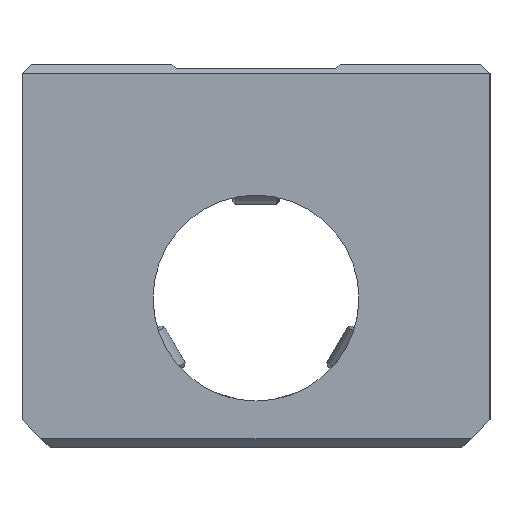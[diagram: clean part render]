
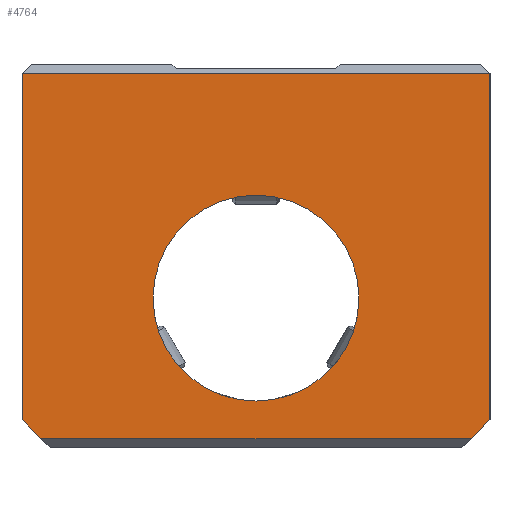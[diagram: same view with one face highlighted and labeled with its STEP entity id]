
A CAD part, left-side view. The second image highlights one B-rep face of the part: STEP entity #4764.
In plain terms, the highlighted planar face has unit normal (-1, 0, 0).
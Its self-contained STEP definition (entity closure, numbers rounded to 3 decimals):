
#3826=CARTESIAN_POINT('',(-30.0,-25.0,24.));
#3827=VERTEX_POINT('',#3826);
#3836=CARTESIAN_POINT('',(-30.0,-25.0,-13.));
#3837=VERTEX_POINT('',#3836);
#3838=CARTESIAN_POINT('',(-30.0,-25.0,24.));
#3839=DIRECTION('',(0.0,0.0,-1.0));
#3840=VECTOR('',#3839,37.);
#3841=LINE('',#3838,#3840);
#3842=EDGE_CURVE('',#3827,#3837,#3841,.T.);
#4557=CARTESIAN_POINT('',(-30.0,25.0,24.));
#4558=VERTEX_POINT('',#4557);
#4565=CARTESIAN_POINT('',(-30.0,25.0,24.));
#4566=DIRECTION('',(0.0,-1.0,0.0));
#4567=VECTOR('',#4566,50.0);
#4568=LINE('',#4565,#4567);
#4569=EDGE_CURVE('',#4558,#3827,#4568,.T.);
#4686=CARTESIAN_POINT('',(-30.0,-23.,-15.));
#4687=VERTEX_POINT('',#4686);
#4688=CARTESIAN_POINT('',(-30.0,-25.0,-13.));
#4689=DIRECTION('',(0.0,0.707,-0.707));
#4690=VECTOR('',#4689,2.828);
#4691=LINE('',#4688,#4690);
#4692=EDGE_CURVE('',#3837,#4687,#4691,.T.);
#4709=CARTESIAN_POINT('',(-30.0,23.,-15.));
#4710=VERTEX_POINT('',#4709);
#4719=CARTESIAN_POINT('',(-30.0,-23.,-15.));
#4720=DIRECTION('',(0.0,1.0,0.0));
#4721=VECTOR('',#4720,46.);
#4722=LINE('',#4719,#4721);
#4723=EDGE_CURVE('',#4687,#4710,#4722,.T.);
#4728=CARTESIAN_POINT('',(-30.0,-17.,24.75));
#4729=DIRECTION('',(1.0,0.0,0.0));
#4730=DIRECTION('',(0.0,0.0,-1.0));
#4731=AXIS2_PLACEMENT_3D('',#4728,#4729,#4730);
#4732=PLANE('',#4731);
#4733=ORIENTED_EDGE('',*,*,#4723,.F.);
#4734=ORIENTED_EDGE('',*,*,#4692,.F.);
#4735=ORIENTED_EDGE('',*,*,#3842,.F.);
#4736=ORIENTED_EDGE('',*,*,#4569,.F.);
#4737=CARTESIAN_POINT('',(-30.0,25.0,-13.));
#4738=VERTEX_POINT('',#4737);
#4739=CARTESIAN_POINT('',(-30.0,25.0,-13.));
#4740=DIRECTION('',(0.0,0.0,1.0));
#4741=VECTOR('',#4740,37.);
#4742=LINE('',#4739,#4741);
#4743=EDGE_CURVE('',#4738,#4558,#4742,.T.);
#4744=ORIENTED_EDGE('',*,*,#4743,.F.);
#4745=CARTESIAN_POINT('',(-30.0,23.,-15.));
#4746=DIRECTION('',(0.0,0.707,0.707));
#4747=VECTOR('',#4746,2.828);
#4748=LINE('',#4745,#4747);
#4749=EDGE_CURVE('',#4710,#4738,#4748,.T.);
#4750=ORIENTED_EDGE('',*,*,#4749,.F.);
#4751=EDGE_LOOP('',(#4733,#4734,#4735,#4736,#4744,#4750));
#4752=FACE_OUTER_BOUND('',#4751,.T.);
#4753=CARTESIAN_POINT('',(-30.0,11.0,0.));
#4754=VERTEX_POINT('',#4753);
#4755=CARTESIAN_POINT('',(-30.0,0.0,0.0));
#4756=DIRECTION('',(1.0,0.0,0.0));
#4757=DIRECTION('',(0.0,-1.0,0.0));
#4758=AXIS2_PLACEMENT_3D('',#4755,#4756,#4757);
#4759=CIRCLE('',#4758,11.0);
#4760=EDGE_CURVE('',#4754,#4754,#4759,.T.);
#4761=ORIENTED_EDGE('',*,*,#4760,.T.);
#4762=EDGE_LOOP('',(#4761));
#4763=FACE_BOUND('',#4762,.T.);
#4764=ADVANCED_FACE('',(#4752,#4763),#4732,.F.);
